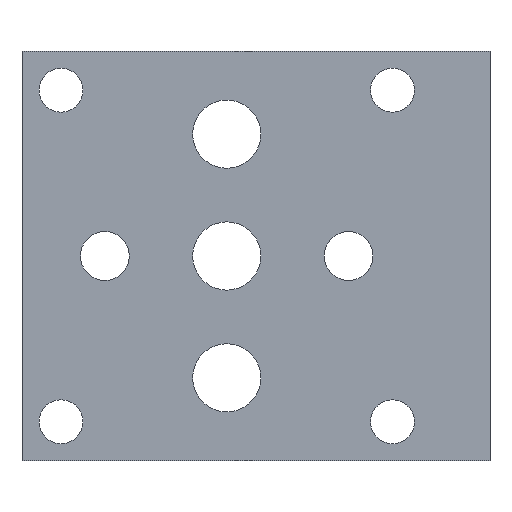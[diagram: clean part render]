
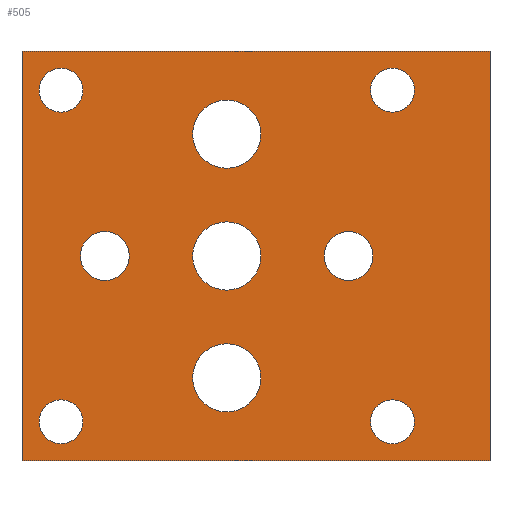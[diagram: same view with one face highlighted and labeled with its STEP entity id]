
A CAD part, front view. The second image highlights one B-rep face of the part: STEP entity #505.
In plain terms, the highlighted planar face has unit normal (0, -1, 0).
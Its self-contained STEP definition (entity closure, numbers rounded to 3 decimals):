
#1 = FACE_BOUND ( 'NONE', #283, .T. ) ;
#2 = FACE_BOUND ( 'NONE', #435, .T. ) ;
#3 = FACE_BOUND ( 'NONE', #301, .T. ) ;
#6 = FACE_OUTER_BOUND ( 'NONE', #286, .T. ) ;
#53 = VERTEX_POINT ( 'NONE', #720 ) ;
#54 = VERTEX_POINT ( 'NONE', #719 ) ;
#55 = VERTEX_POINT ( 'NONE', #718 ) ;
#56 = VERTEX_POINT ( 'NONE', #717 ) ;
#57 = VERTEX_POINT ( 'NONE', #716 ) ;
#58 = VERTEX_POINT ( 'NONE', #715 ) ;
#59 = VERTEX_POINT ( 'NONE', #714 ) ;
#61 = VERTEX_POINT ( 'NONE', #712 ) ;
#63 = VERTEX_POINT ( 'NONE', #710 ) ;
#88 = VECTOR ( 'NONE', #841, 1000. ) ;
#90 = LINE ( 'NONE', #840, #88 ) ;
#91 = VECTOR ( 'NONE', #838, 1000. ) ;
#92 = VECTOR ( 'NONE', #839, 1000. ) ;
#93 = CIRCLE ( 'NONE', #767, 3.5 ) ;
#94 = CIRCLE ( 'NONE', #766, 3.5 ) ;
#95 = CIRCLE ( 'NONE', #765, 3.5 ) ;
#96 = CIRCLE ( 'NONE', #764, 2.25 ) ;
#97 = CIRCLE ( 'NONE', #763, 2.25 ) ;
#98 = CIRCLE ( 'NONE', #762, 2.5 ) ;
#99 = LINE ( 'NONE', #824, #91 ) ;
#100 = LINE ( 'NONE', #828, #92 ) ;
#102 = CIRCLE ( 'NONE', #761, 2.5 ) ;
#106 = VECTOR ( 'NONE', #799, 1000. ) ;
#108 = CIRCLE ( 'NONE', #759, 2.25 ) ;
#113 = CIRCLE ( 'NONE', #757, 2.25 ) ;
#114 = LINE ( 'NONE', #811, #106 ) ;
#260 = FACE_BOUND ( 'NONE', #302, .T. ) ;
#271 = FACE_BOUND ( 'NONE', #303, .T. ) ;
#275 = FACE_BOUND ( 'NONE', #403, .T. ) ;
#283 = EDGE_LOOP ( 'NONE', ( #314 ) ) ;
#286 = EDGE_LOOP ( 'NONE', ( #324, #322, #313, #325 ) ) ;
#301 = EDGE_LOOP ( 'NONE', ( #386 ) ) ;
#302 = EDGE_LOOP ( 'NONE', ( #485 ) ) ;
#303 = EDGE_LOOP ( 'NONE', ( #319 ) ) ;
#313 = ORIENTED_EDGE ( 'NONE', *, *, #985, .F. ) ;
#314 = ORIENTED_EDGE ( 'NONE', *, *, #982, .T. ) ;
#316 = ORIENTED_EDGE ( 'NONE', *, *, #981, .T. ) ;
#319 = ORIENTED_EDGE ( 'NONE', *, *, #977, .T. ) ;
#320 = ORIENTED_EDGE ( 'NONE', *, *, #970, .T. ) ;
#322 = ORIENTED_EDGE ( 'NONE', *, *, #984, .F. ) ;
#324 = ORIENTED_EDGE ( 'NONE', *, *, #983, .T. ) ;
#325 = ORIENTED_EDGE ( 'NONE', *, *, #973, .T. ) ;
#331 = ORIENTED_EDGE ( 'NONE', *, *, #968, .T. ) ;
#333 = ORIENTED_EDGE ( 'NONE', *, *, #978, .T. ) ;
#340 = ORIENTED_EDGE ( 'NONE', *, *, #976, .T. ) ;
#350 = VERTEX_POINT ( 'NONE', #932 ) ;
#353 = VERTEX_POINT ( 'NONE', #933 ) ;
#359 = VERTEX_POINT ( 'NONE', #943 ) ;
#367 = VERTEX_POINT ( 'NONE', #947 ) ;
#376 = FACE_BOUND ( 'NONE', #406, .T. ) ;
#383 = EDGE_LOOP ( 'NONE', ( #333 ) ) ;
#386 = ORIENTED_EDGE ( 'NONE', *, *, #980, .T. ) ;
#398 = EDGE_LOOP ( 'NONE', ( #320 ) ) ;
#403 = EDGE_LOOP ( 'NONE', ( #340 ) ) ;
#406 = EDGE_LOOP ( 'NONE', ( #331 ) ) ;
#435 = EDGE_LOOP ( 'NONE', ( #316 ) ) ;
#472 = FACE_BOUND ( 'NONE', #383, .T. ) ;
#479 = FACE_BOUND ( 'NONE', #398, .T. ) ;
#485 = ORIENTED_EDGE ( 'NONE', *, *, #979, .T. ) ;
#505 = ADVANCED_FACE ( 'NONE', ( #275, #271, #472, #479, #376, #260, #3, #2, #1, #6 ), #534, .F. ) ;
#532 = DIRECTION ( 'NONE',  ( 0., 1., 0. ) ) ;
#534 = PLANE ( 'NONE',  #1003 ) ;
#536 = CARTESIAN_POINT ( 'NONE',  ( 0., 0., 21. ) ) ;
#538 = DIRECTION ( 'NONE',  ( 0., 0., 1. ) ) ;
#710 = CARTESIAN_POINT ( 'NONE',  ( 38., 0., 19.25 ) ) ;
#712 = CARTESIAN_POINT ( 'NONE',  ( 38., 0., -14.75 ) ) ;
#714 = CARTESIAN_POINT ( 'NONE',  ( 8.5, 0., 2.5 ) ) ;
#715 = CARTESIAN_POINT ( 'NONE',  ( 33.5, 0., 2.5 ) ) ;
#716 = CARTESIAN_POINT ( 'NONE',  ( 4., 0., -14.75 ) ) ;
#717 = CARTESIAN_POINT ( 'NONE',  ( 4., 0., 19.25 ) ) ;
#718 = CARTESIAN_POINT ( 'NONE',  ( 21., 0., -9. ) ) ;
#719 = CARTESIAN_POINT ( 'NONE',  ( 21., 0., 3.5 ) ) ;
#720 = CARTESIAN_POINT ( 'NONE',  ( 21., 0., 16. ) ) ;
#757 = AXIS2_PLACEMENT_3D ( 'NONE', #796, #797, #798 ) ;
#759 = AXIS2_PLACEMENT_3D ( 'NONE', #804, #805, #806 ) ;
#761 = AXIS2_PLACEMENT_3D ( 'NONE', #815, #816, #817 ) ;
#762 = AXIS2_PLACEMENT_3D ( 'NONE', #818, #819, #820 ) ;
#763 = AXIS2_PLACEMENT_3D ( 'NONE', #821, #822, #823 ) ;
#764 = AXIS2_PLACEMENT_3D ( 'NONE', #825, #826, #827 ) ;
#765 = AXIS2_PLACEMENT_3D ( 'NONE', #829, #830, #831 ) ;
#766 = AXIS2_PLACEMENT_3D ( 'NONE', #832, #833, #834 ) ;
#767 = AXIS2_PLACEMENT_3D ( 'NONE', #835, #836, #837 ) ;
#796 = CARTESIAN_POINT ( 'NONE',  ( 38., 0., 17. ) ) ;
#797 = DIRECTION ( 'NONE',  ( 0., 1., 0. ) ) ;
#798 = DIRECTION ( 'NONE',  ( 0., 0., 1. ) ) ;
#799 = DIRECTION ( 'NONE',  ( 0., 0., -1. ) ) ;
#804 = CARTESIAN_POINT ( 'NONE',  ( 38., 0., -17. ) ) ;
#805 = DIRECTION ( 'NONE',  ( 0., 1., 0. ) ) ;
#806 = DIRECTION ( 'NONE',  ( 0., 0., 1. ) ) ;
#811 = CARTESIAN_POINT ( 'NONE',  ( 0., 0., 21. ) ) ;
#815 = CARTESIAN_POINT ( 'NONE',  ( 8.5, 0., 0. ) ) ;
#816 = DIRECTION ( 'NONE',  ( 0., 1., 0. ) ) ;
#817 = DIRECTION ( 'NONE',  ( 0., 0., 1. ) ) ;
#818 = CARTESIAN_POINT ( 'NONE',  ( 33.5, 0., 0. ) ) ;
#819 = DIRECTION ( 'NONE',  ( 0., 1., 0. ) ) ;
#820 = DIRECTION ( 'NONE',  ( 0., 0., 1. ) ) ;
#821 = CARTESIAN_POINT ( 'NONE',  ( 4., 0., -17. ) ) ;
#822 = DIRECTION ( 'NONE',  ( 0., 1., 0. ) ) ;
#823 = DIRECTION ( 'NONE',  ( 0., 0., 1. ) ) ;
#824 = CARTESIAN_POINT ( 'NONE',  ( 0., 0., -21. ) ) ;
#825 = CARTESIAN_POINT ( 'NONE',  ( 4., 0., 17. ) ) ;
#826 = DIRECTION ( 'NONE',  ( 0., 1., 0. ) ) ;
#827 = DIRECTION ( 'NONE',  ( 0., 0., 1. ) ) ;
#828 = CARTESIAN_POINT ( 'NONE',  ( 48., 0., 21. ) ) ;
#829 = CARTESIAN_POINT ( 'NONE',  ( 21., 0., -12.5 ) ) ;
#830 = DIRECTION ( 'NONE',  ( 0., 1., 0. ) ) ;
#831 = DIRECTION ( 'NONE',  ( 0., 0., 1. ) ) ;
#832 = CARTESIAN_POINT ( 'NONE',  ( 21., 0., 0. ) ) ;
#833 = DIRECTION ( 'NONE',  ( 0., 1., 0. ) ) ;
#834 = DIRECTION ( 'NONE',  ( 0., 0., 1. ) ) ;
#835 = CARTESIAN_POINT ( 'NONE',  ( 21., 0., 12.5 ) ) ;
#836 = DIRECTION ( 'NONE',  ( 0., 1., 0. ) ) ;
#837 = DIRECTION ( 'NONE',  ( 0., 0., 1. ) ) ;
#838 = DIRECTION ( 'NONE',  ( 1., 0., 0. ) ) ;
#839 = DIRECTION ( 'NONE',  ( 0., 0., -1. ) ) ;
#840 = CARTESIAN_POINT ( 'NONE',  ( 0., 0., 21. ) ) ;
#841 = DIRECTION ( 'NONE',  ( 1., 0., 0. ) ) ;
#932 = CARTESIAN_POINT ( 'NONE',  ( 0., 0., 21. ) ) ;
#933 = CARTESIAN_POINT ( 'NONE',  ( 0., 0., -21. ) ) ;
#943 = CARTESIAN_POINT ( 'NONE',  ( 48., 0., -21. ) ) ;
#947 = CARTESIAN_POINT ( 'NONE',  ( 48., 0., 21. ) ) ;
#968 = EDGE_CURVE ( 'NONE', #63, #63, #113, .T. ) ;
#970 = EDGE_CURVE ( 'NONE', #61, #61, #108, .T. ) ;
#973 = EDGE_CURVE ( 'NONE', #350, #353, #114, .T. ) ;
#976 = EDGE_CURVE ( 'NONE', #59, #59, #102, .T. ) ;
#977 = EDGE_CURVE ( 'NONE', #58, #58, #98, .T. ) ;
#978 = EDGE_CURVE ( 'NONE', #57, #57, #97, .T. ) ;
#979 = EDGE_CURVE ( 'NONE', #56, #56, #96, .T. ) ;
#980 = EDGE_CURVE ( 'NONE', #55, #55, #95, .T. ) ;
#981 = EDGE_CURVE ( 'NONE', #54, #54, #94, .T. ) ;
#982 = EDGE_CURVE ( 'NONE', #53, #53, #93, .T. ) ;
#983 = EDGE_CURVE ( 'NONE', #353, #359, #99, .T. ) ;
#984 = EDGE_CURVE ( 'NONE', #367, #359, #100, .T. ) ;
#985 = EDGE_CURVE ( 'NONE', #350, #367, #90, .T. ) ;
#1003 = AXIS2_PLACEMENT_3D ( 'NONE', #536, #532, #538 ) ;
